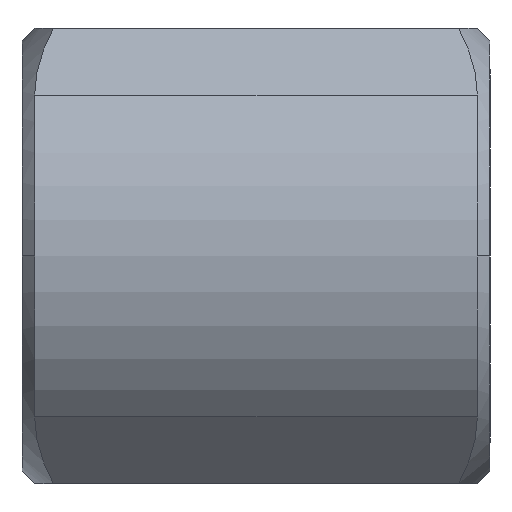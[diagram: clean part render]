
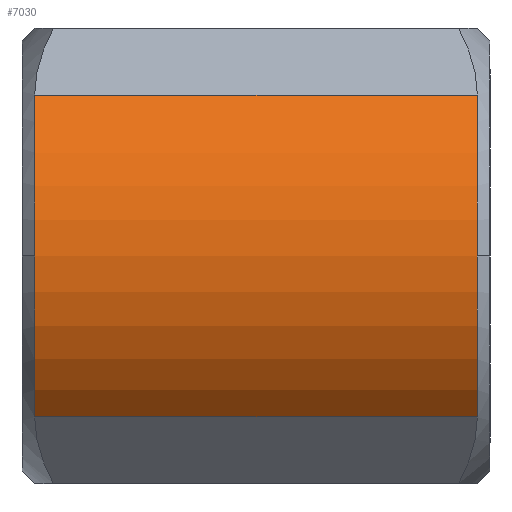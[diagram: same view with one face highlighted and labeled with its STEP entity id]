
A CAD part, left-side view. The second image highlights one B-rep face of the part: STEP entity #7030.
In plain terms, the highlighted cylindrical face has radius 9 mm (diameter 18 mm), a partial arc.
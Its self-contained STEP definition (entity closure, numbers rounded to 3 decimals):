
#314 = CYLINDRICAL_SURFACE ( 'NONE', #8258, 9. ) ;
#374 = EDGE_CURVE ( 'Defeature completata1_85+Defeature completata1_84+Defeature completata1_88+Defeature completata1_93', #7601, #3734, #5286, .T. ) ;
#435 = ORIENTED_EDGE ( 'NONE', *, *, #374, .T. ) ;
#514 = DIRECTION ( 'NONE',  ( -1., 0., 0. ) ) ;
#569 = VERTEX_POINT ( 'NONE', #2373 ) ;
#689 = DIRECTION ( 'NONE',  ( 0., 0., -1. ) ) ;
#895 = LINE ( 'NONE', #4945, #4338 ) ;
#1052 = CARTESIAN_POINT ( 'NONE',  ( -9., 18., 0. ) ) ;
#1092 = EDGE_CURVE ( 'Defeature completata1_81+Defeature completata1_85+Defeature completata1_88+Defeature completata1_93', #8101, #569, #895, .T. ) ;
#1128 = DIRECTION ( 'NONE',  ( 0., 1., 0. ) ) ;
#1202 = CARTESIAN_POINT ( 'NONE',  ( 0., 0.5, 0. ) ) ;
#1336 = ORIENTED_EDGE ( 'NONE', *, *, #3461, .F. ) ;
#1376 = CARTESIAN_POINT ( 'NONE',  ( 0., 18.5, 0. ) ) ;
#1657 = VECTOR ( 'NONE', #6626, 1000. ) ;
#1694 = EDGE_CURVE ( 'Defeature completata1_88+Defeature completata1_85+Defeature completata1_84+Defeature completata1_81', #8697, #8101, #4234, .T. ) ;
#1712 = ORIENTED_EDGE ( 'NONE', *, *, #1694, .F. ) ;
#1899 = DIRECTION ( 'NONE',  ( -1., 0., 0. ) ) ;
#1965 = CIRCLE ( 'NONE', #7083, 9. ) ;
#2075 = CIRCLE ( 'NONE', #2777, 9. ) ;
#2180 = CIRCLE ( 'NONE', #6903, 9. ) ;
#2373 = CARTESIAN_POINT ( 'NONE',  ( -6.364, 0.5, 6.364 ) ) ;
#2384 = ORIENTED_EDGE ( 'NONE', *, *, #1092, .F. ) ;
#2411 = ORIENTED_EDGE ( 'NONE', *, *, #2978, .F. ) ;
#2730 = CARTESIAN_POINT ( 'NONE',  ( -6.364, 18., -6.364 ) ) ;
#2777 = AXIS2_PLACEMENT_3D ( 'NONE', #7963, #3840, #8673 ) ;
#2978 = EDGE_CURVE ( 'Defeature completata1_93+Defeature completata1_85+Defeature completata1_81+Defeature completata1_84', #569, #8332, #1965, .T. ) ;
#3111 = AXIS2_PLACEMENT_3D ( 'NONE', #5237, #1128, #5931 ) ;
#3461 = EDGE_CURVE ( 'Defeature completata1_88+Defeature completata1_85+Defeature completata1_84+Defeature completata1_81', #7601, #8697, #2075, .T. ) ;
#3734 = VERTEX_POINT ( 'NONE', #7467 ) ;
#3840 = DIRECTION ( 'NONE',  ( 0., 1., 0. ) ) ;
#3868 = EDGE_CURVE ( 'Defeature completata1_93+Defeature completata1_85+Defeature completata1_81+Defeature completata1_84', #8332, #3734, #2180, .T. ) ;
#4234 = CIRCLE ( 'NONE', #3111, 9. ) ;
#4238 = CARTESIAN_POINT ( 'NONE',  ( -9., 0.5, 0. ) ) ;
#4338 = VECTOR ( 'NONE', #8561, 1000. ) ;
#4641 = DIRECTION ( 'NONE',  ( 0., -1., 0. ) ) ;
#4798 = CARTESIAN_POINT ( 'NONE',  ( -6.364, 18., 6.364 ) ) ;
#4945 = CARTESIAN_POINT ( 'NONE',  ( -6.364, 18.5, 6.364 ) ) ;
#5237 = CARTESIAN_POINT ( 'NONE',  ( 0., 18., 0. ) ) ;
#5286 = LINE ( 'NONE', #8700, #1657 ) ;
#5931 = DIRECTION ( 'NONE',  ( 1., 0., 0. ) ) ;
#6005 = DIRECTION ( 'NONE',  ( 0., -1., 0. ) ) ;
#6567 = ORIENTED_EDGE ( 'NONE', *, *, #3868, .F. ) ;
#6626 = DIRECTION ( 'NONE',  ( 0., -1., 0. ) ) ;
#6903 = AXIS2_PLACEMENT_3D ( 'NONE', #8809, #4641, #514 ) ;
#7030 = ADVANCED_FACE ( 'Defeature completata1_85', ( #7650 ), #314, .T. ) ;
#7083 = AXIS2_PLACEMENT_3D ( 'NONE', #1202, #6005, #1899 ) ;
#7467 = CARTESIAN_POINT ( 'NONE',  ( -6.364, 0.5, -6.364 ) ) ;
#7601 = VERTEX_POINT ( 'NONE', #2730 ) ;
#7650 = FACE_OUTER_BOUND ( 'NONE', #8158, .T. ) ;
#7963 = CARTESIAN_POINT ( 'NONE',  ( 0., 18., 0. ) ) ;
#8101 = VERTEX_POINT ( 'NONE', #4798 ) ;
#8158 = EDGE_LOOP ( 'NONE', ( #2411, #2384, #1712, #1336, #435, #6567 ) ) ;
#8258 = AXIS2_PLACEMENT_3D ( 'NONE', #1376, #8265, #689 ) ;
#8265 = DIRECTION ( 'NONE',  ( 0., -1., 0. ) ) ;
#8332 = VERTEX_POINT ( 'NONE', #4238 ) ;
#8561 = DIRECTION ( 'NONE',  ( 0., -1., 0. ) ) ;
#8673 = DIRECTION ( 'NONE',  ( 1., 0., 0. ) ) ;
#8697 = VERTEX_POINT ( 'NONE', #1052 ) ;
#8700 = CARTESIAN_POINT ( 'NONE',  ( -6.364, 18.5, -6.364 ) ) ;
#8809 = CARTESIAN_POINT ( 'NONE',  ( 0., 0.5, 0. ) ) ;
